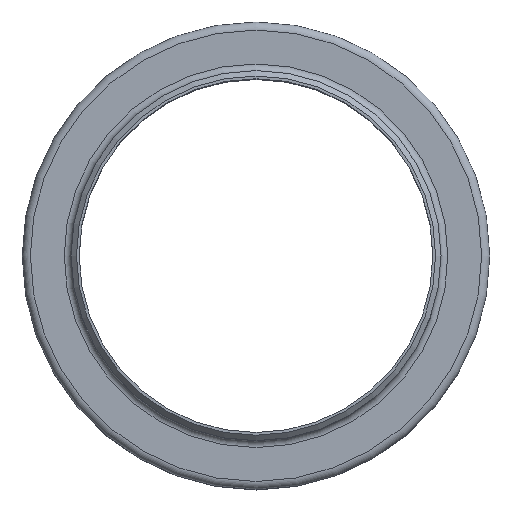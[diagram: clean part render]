
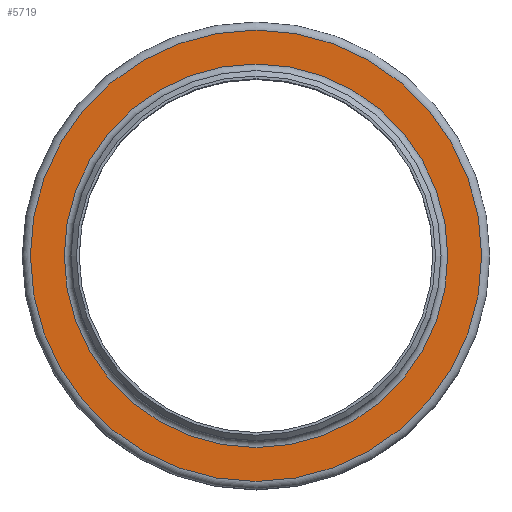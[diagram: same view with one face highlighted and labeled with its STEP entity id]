
A CAD part, top view. The second image highlights one B-rep face of the part: STEP entity #5719.
In plain terms, the highlighted planar face has unit normal (0, 0, 1).
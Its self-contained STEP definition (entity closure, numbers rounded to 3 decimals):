
#195=FACE_BOUND('',#1033,.T.);
#325=PLANE('',#6136);
#687=FACE_OUTER_BOUND('',#1032,.T.);
#1032=EDGE_LOOP('',(#4787));
#1033=EDGE_LOOP('',(#4788));
#1888=CIRCLE('',#6131,141.5);
#1892=CIRCLE('',#6137,166.5);
#2648=VERTEX_POINT('',#13208);
#2651=VERTEX_POINT('',#13219);
#3378=EDGE_CURVE('',#2648,#2648,#1888,.T.);
#3383=EDGE_CURVE('',#2651,#2651,#1892,.T.);
#4787=ORIENTED_EDGE('',*,*,#3383,.F.);
#4788=ORIENTED_EDGE('',*,*,#3378,.F.);
#5719=ADVANCED_FACE('',(#687,#195),#325,.F.);
#6131=AXIS2_PLACEMENT_3D('',#13210,#7277,#7278);
#6136=AXIS2_PLACEMENT_3D('',#13218,#7288,#7289);
#6137=AXIS2_PLACEMENT_3D('',#13220,#7290,#7291);
#7277=DIRECTION('center_axis',(0.,0.,1.));
#7278=DIRECTION('ref_axis',(0.,-1.,0.));
#7288=DIRECTION('center_axis',(0.,0.,-1.));
#7289=DIRECTION('ref_axis',(-1.,0.,0.));
#7290=DIRECTION('center_axis',(0.,0.,-1.));
#7291=DIRECTION('ref_axis',(1.,0.,0.));
#13208=CARTESIAN_POINT('',(141.5,0.,93.5));
#13210=CARTESIAN_POINT('Origin',(0.,0.,93.5));
#13218=CARTESIAN_POINT('Origin',(0.,136.5,93.5));
#13219=CARTESIAN_POINT('',(166.5,0.,93.5));
#13220=CARTESIAN_POINT('Origin',(0.,0.,93.5));
